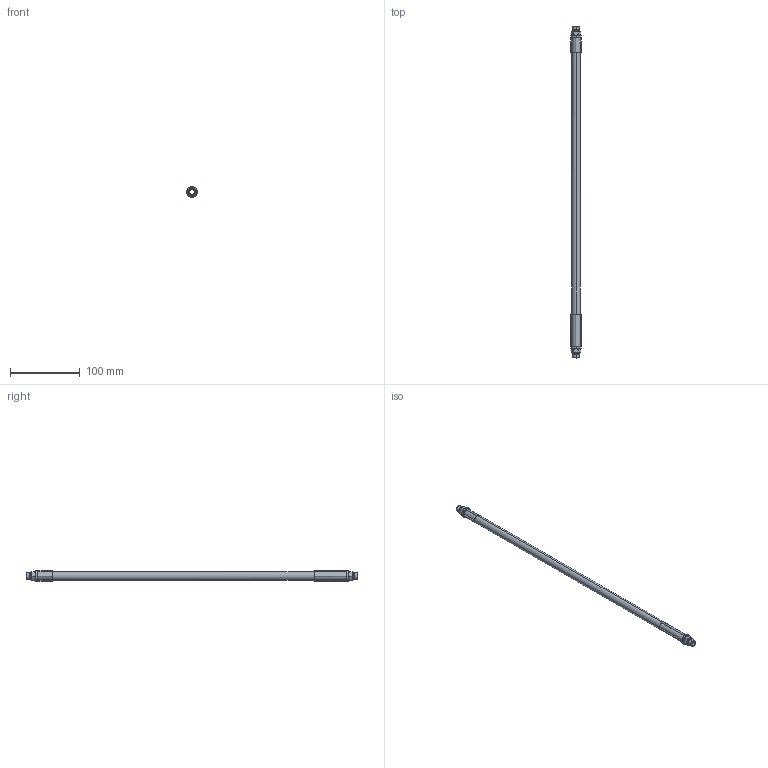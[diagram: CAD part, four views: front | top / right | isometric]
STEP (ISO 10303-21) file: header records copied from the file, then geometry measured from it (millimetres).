
FILE_DESCRIPTION (( 'STEP AP203' ), '1' );
FILE_NAME ('SILVENT_865_STEP.STEP', '2019-11-19T07:19:32', ( '' ), ( '' ), 'SwSTEP 2.0', 'SolidWorks 2016', '' );
FILE_SCHEMA (( 'CONFIG_CONTROL_DESIGN' ));
Length unit declared in the file: millimetre
Products named in the file (2): SILVENT_865_STEP
Bounding box: 15 x 476 x 15 mm (x, y, z)
Volume: 35341.5 mm3; surface area: 29615.3 mm2
Topology: 1 solids, 1 shells, 139 faces, 332 edges, 186 vertices
Faces by surface type: cylinder 42, plane 37, cone 32, bspline 16, torus 12
Entity records: 4883 total; most frequent: CARTESIAN_POINT 1651, DIRECTION 692, ORIENTED_EDGE 632, EDGE_CURVE 316, AXIS2_PLACEMENT_3D 315, CIRCLE 190, VERTEX_POINT 186, EDGE_LOOP 148
